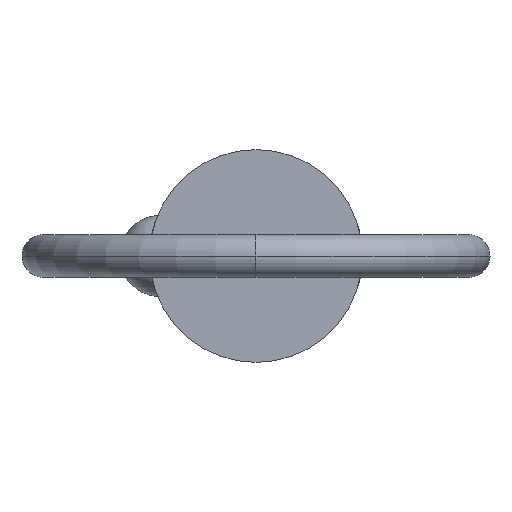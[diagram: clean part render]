
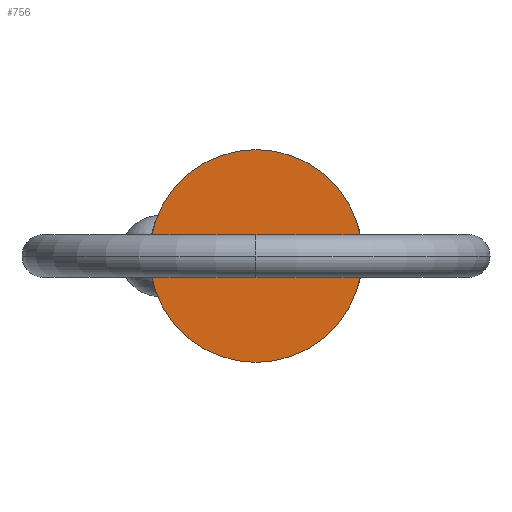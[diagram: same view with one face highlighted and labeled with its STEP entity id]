
A CAD part, left-side view. The second image highlights one B-rep face of the part: STEP entity #756.
In plain terms, the highlighted planar face has unit normal (-1, 0, 0).
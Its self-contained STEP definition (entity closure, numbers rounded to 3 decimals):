
#49 = EDGE_CURVE ( 'NONE', #432, #284, #260, .T. ) ;
#62 = CARTESIAN_POINT ( 'NONE',  ( 0., 0., 0. ) ) ;
#89 = EDGE_CURVE ( 'NONE', #284, #432, #831, .T. ) ;
#151 = CARTESIAN_POINT ( 'NONE',  ( 0., 0., 0. ) ) ;
#164 = ORIENTED_EDGE ( 'NONE', *, *, #49, .F. ) ;
#172 = AXIS2_PLACEMENT_3D ( 'NONE', #62, #693, #278 ) ;
#260 = CIRCLE ( 'NONE', #350, 9.525 ) ;
#278 = DIRECTION ( 'NONE',  ( 0., 0., -1. ) ) ;
#284 = VERTEX_POINT ( 'NONE', #647 ) ;
#295 = PLANE ( 'NONE',  #455 ) ;
#350 = AXIS2_PLACEMENT_3D ( 'NONE', #625, #823, #542 ) ;
#405 = EDGE_LOOP ( 'NONE', ( #164, #498 ) ) ;
#432 = VERTEX_POINT ( 'NONE', #573 ) ;
#455 = AXIS2_PLACEMENT_3D ( 'NONE', #151, #585, #852 ) ;
#488 = FACE_OUTER_BOUND ( 'NONE', #405, .T. ) ;
#498 = ORIENTED_EDGE ( 'NONE', *, *, #89, .F. ) ;
#542 = DIRECTION ( 'NONE',  ( 0., 0., -1. ) ) ;
#573 = CARTESIAN_POINT ( 'NONE',  ( 0., 0., -9.525 ) ) ;
#585 = DIRECTION ( 'NONE',  ( -1., 0., 0. ) ) ;
#625 = CARTESIAN_POINT ( 'NONE',  ( 0., 0., 0. ) ) ;
#647 = CARTESIAN_POINT ( 'NONE',  ( 0., 0., 9.525 ) ) ;
#693 = DIRECTION ( 'NONE',  ( 1., 0., 0. ) ) ;
#756 = ADVANCED_FACE ( 'NONE', ( #488 ), #295, .T. ) ;
#823 = DIRECTION ( 'NONE',  ( 1., 0., 0. ) ) ;
#831 = CIRCLE ( 'NONE', #172, 9.525 ) ;
#852 = DIRECTION ( 'NONE',  ( 0., 0., 1. ) ) ;
